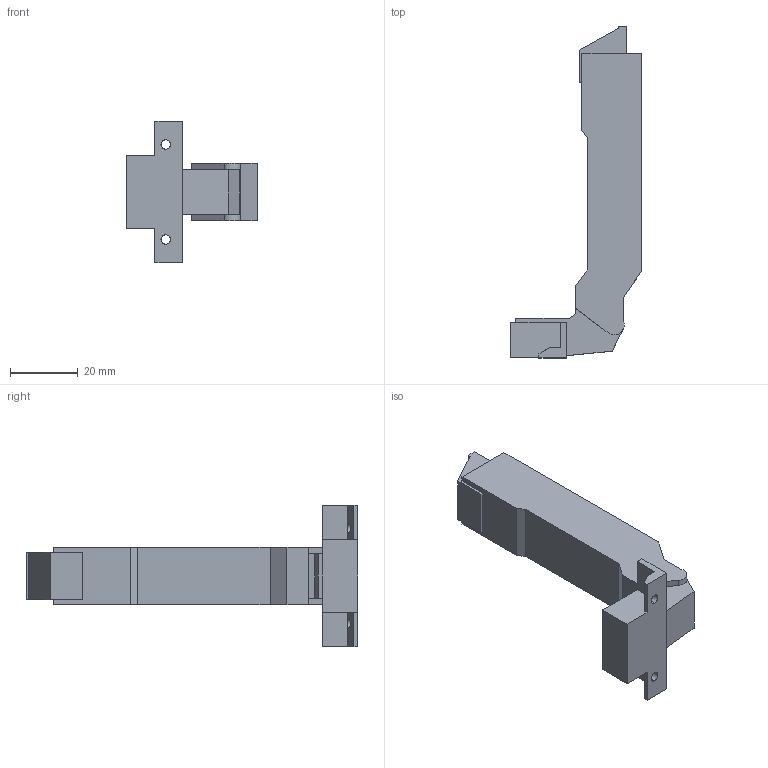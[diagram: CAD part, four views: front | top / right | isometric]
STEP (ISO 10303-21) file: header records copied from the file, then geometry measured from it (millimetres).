
FILE_DESCRIPTION (( 'STEP AP214' ), '1' );
FILE_NAME ('Scharnier TS Click-on 110° AL, K00.step', '2010-12-13T09:55:59', ( 'grass' ), ( '' ), 'SwSTEP 2.0', 'SolidWorks 2010', '' );
FILE_SCHEMA (( 'AUTOMOTIVE_DESIGN' ));
Length unit declared in the file: millimetre
Products named in the file (1): Scharnier TS Click-on 110° AL, K00
Bounding box: 38.5 x 97.8 x 41.8 mm (x, y, z)
Volume: 29400.8 mm3; surface area: 8862.4 mm2
Topology: 1 solids, 1 shells, 60 faces, 171 edges, 114 vertices
Faces by surface type: plane 49, cylinder 11
Entity records: 1979 total; most frequent: CARTESIAN_POINT 364, ORIENTED_EDGE 342, DIRECTION 309, EDGE_CURVE 171, LINE 143, VECTOR 143, VERTEX_POINT 114, AXIS2_PLACEMENT_3D 83
